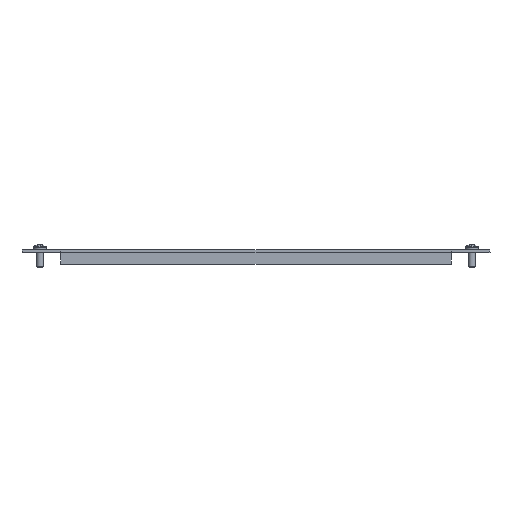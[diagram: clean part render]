
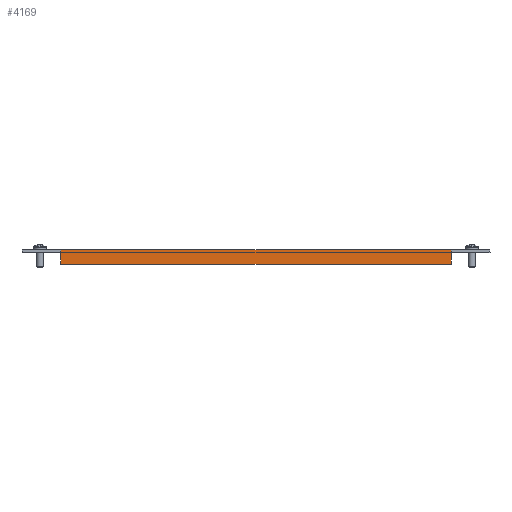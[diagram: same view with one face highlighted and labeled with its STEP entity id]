
A CAD part, front view. The second image highlights one B-rep face of the part: STEP entity #4169.
In plain terms, the highlighted planar face has unit normal (0, -1, 0).
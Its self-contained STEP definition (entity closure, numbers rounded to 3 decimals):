
#57 = CARTESIAN_POINT ( 'NONE',  ( 135.5, -435., -2.4 ) ) ;
#283 = EDGE_CURVE ( 'NONE', #2584, #668, #2090, .T. ) ;
#339 = DIRECTION ( 'NONE',  ( 0., 0., 1. ) ) ;
#378 = DIRECTION ( 'NONE',  ( -1., 0., 0. ) ) ;
#475 = LINE ( 'NONE', #4223, #1601 ) ;
#492 = VECTOR ( 'NONE', #1547, 1000. ) ;
#655 = CARTESIAN_POINT ( 'NONE',  ( 0., -435., 0. ) ) ;
#668 = VERTEX_POINT ( 'NONE', #1122 ) ;
#865 = VECTOR ( 'NONE', #3867, 1000. ) ;
#897 = EDGE_CURVE ( 'NONE', #1827, #2819, #1474, .T. ) ;
#1019 = ORIENTED_EDGE ( 'NONE', *, *, #2850, .T. ) ;
#1094 = DIRECTION ( 'NONE',  ( 0., 0., 1. ) ) ;
#1122 = CARTESIAN_POINT ( 'NONE',  ( -135.5, -435., -10. ) ) ;
#1354 = CARTESIAN_POINT ( 'NONE',  ( 135.5, -435., -2.4 ) ) ;
#1474 = LINE ( 'NONE', #57, #2165 ) ;
#1484 = LINE ( 'NONE', #4219, #865 ) ;
#1510 = CARTESIAN_POINT ( 'NONE',  ( 135.5, -435., -10. ) ) ;
#1547 = DIRECTION ( 'NONE',  ( 0., 0., -1. ) ) ;
#1571 = CARTESIAN_POINT ( 'NONE',  ( -135.5, -435., 0. ) ) ;
#1572 = VERTEX_POINT ( 'NONE', #3939 ) ;
#1601 = VECTOR ( 'NONE', #2817, 1000. ) ;
#1641 = ORIENTED_EDGE ( 'NONE', *, *, #2478, .F. ) ;
#1827 = VERTEX_POINT ( 'NONE', #1354 ) ;
#1828 = ORIENTED_EDGE ( 'NONE', *, *, #3815, .F. ) ;
#1837 = EDGE_LOOP ( 'NONE', ( #3885, #2633, #1019, #1828, #1641, #3976 ) ) ;
#1873 = CARTESIAN_POINT ( 'NONE',  ( 135.5, -435., -10. ) ) ;
#2016 = VERTEX_POINT ( 'NONE', #1571 ) ;
#2035 = AXIS2_PLACEMENT_3D ( 'NONE', #655, #3071, #2045 ) ;
#2045 = DIRECTION ( 'NONE',  ( 1., 0., 0. ) ) ;
#2090 = LINE ( 'NONE', #3829, #3094 ) ;
#2127 = EDGE_CURVE ( 'NONE', #1827, #2584, #3581, .T. ) ;
#2165 = VECTOR ( 'NONE', #339, 1000. ) ;
#2468 = LINE ( 'NONE', #4190, #4322 ) ;
#2478 = EDGE_CURVE ( 'NONE', #668, #1572, #2468, .T. ) ;
#2584 = VERTEX_POINT ( 'NONE', #1510 ) ;
#2633 = ORIENTED_EDGE ( 'NONE', *, *, #897, .T. ) ;
#2817 = DIRECTION ( 'NONE',  ( -1., 0., 0. ) ) ;
#2819 = VERTEX_POINT ( 'NONE', #4293 ) ;
#2850 = EDGE_CURVE ( 'NONE', #2819, #2016, #475, .T. ) ;
#3071 = DIRECTION ( 'NONE',  ( 0., -1., 0. ) ) ;
#3094 = VECTOR ( 'NONE', #378, 1000. ) ;
#3101 = PLANE ( 'NONE',  #2035 ) ;
#3420 = FACE_OUTER_BOUND ( 'NONE', #1837, .T. ) ;
#3581 = LINE ( 'NONE', #1873, #492 ) ;
#3815 = EDGE_CURVE ( 'NONE', #1572, #2016, #1484, .T. ) ;
#3829 = CARTESIAN_POINT ( 'NONE',  ( -135.5, -435., -10. ) ) ;
#3867 = DIRECTION ( 'NONE',  ( 0., 0., 1. ) ) ;
#3885 = ORIENTED_EDGE ( 'NONE', *, *, #2127, .F. ) ;
#3939 = CARTESIAN_POINT ( 'NONE',  ( -135.5, -435., -2.4 ) ) ;
#3976 = ORIENTED_EDGE ( 'NONE', *, *, #283, .F. ) ;
#4169 = ADVANCED_FACE ( 'NONE', ( #3420 ), #3101, .T. ) ;
#4190 = CARTESIAN_POINT ( 'NONE',  ( -135.5, -435., -1.8 ) ) ;
#4219 = CARTESIAN_POINT ( 'NONE',  ( -135.5, -435., 0. ) ) ;
#4223 = CARTESIAN_POINT ( 'NONE',  ( 0., -435., 0. ) ) ;
#4293 = CARTESIAN_POINT ( 'NONE',  ( 135.5, -435., 0. ) ) ;
#4322 = VECTOR ( 'NONE', #1094, 1000. ) ;
